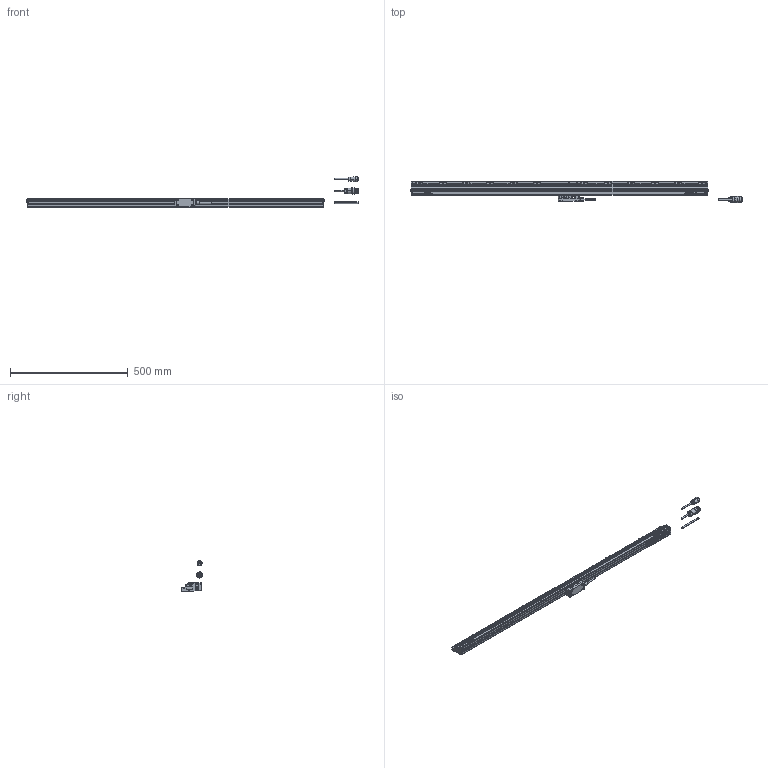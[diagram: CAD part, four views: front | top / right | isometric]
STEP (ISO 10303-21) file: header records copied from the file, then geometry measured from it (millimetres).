
FILE_DESCRIPTION(('Creo Elements/Direct Modeling STEP Export'),'2;1');
FILE_NAME('AT402E-1140.stp','2018-02-21T13:05:13',(''),(''),'Creo Elements/Direct Modeling STEP processor for AP214 (Solid Model)','Creo Elements/Direct Modeling 18.1B 29-Sep-2012 (C) Parametric Technology GmbH','');
FILE_SCHEMA(('AUTOMOTIVE_DESIGN { 1 0 10303 214 1 1 1 1 }'));
Length unit declared in the file: millimetre
Products named in the file (6): Scale_1140; Connector_typeA; Detector_Head; Connector_typeB; Connector_typeC; AT402E-1140
Assembly tree (5 placements, depth 2):
  AT402E-1140
    Connector_typeC
    Connector_typeB
    Detector_Head
    Connector_typeA
    Scale_1140
Bounding box: 1409.63 x 90 x 130.25 mm (x, y, z)
Volume: 2136638.5 mm3; surface area: 283490.2 mm2
Topology: 5 solids, 5 shells, 1291 faces, 3769 edges, 2552 vertices
Faces by surface type: plane 722, cylinder 435, torus 50, bspline 46, cone 26, sphere 12
Entity records: 48060 total; most frequent: CARTESIAN_POINT 14323, ORIENTED_EDGE 7538, DIRECTION 6515, EDGE_CURVE 3769, VERTEX_POINT 2552, VECTOR 2223, LINE 2223, AXIS2_PLACEMENT_3D 2146
